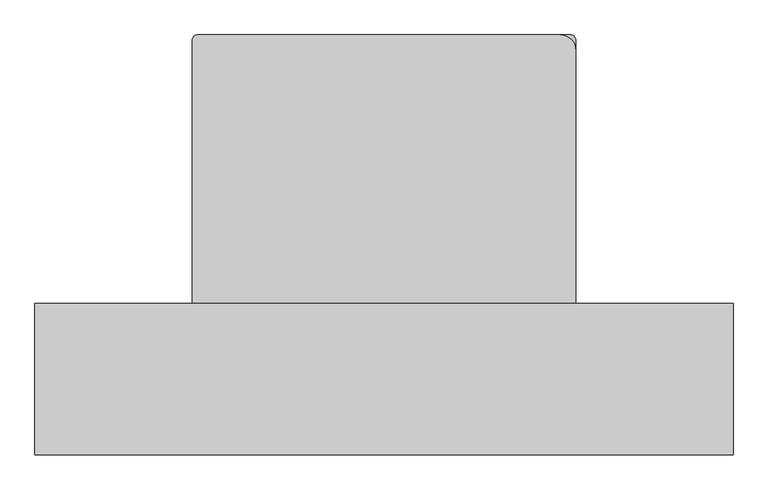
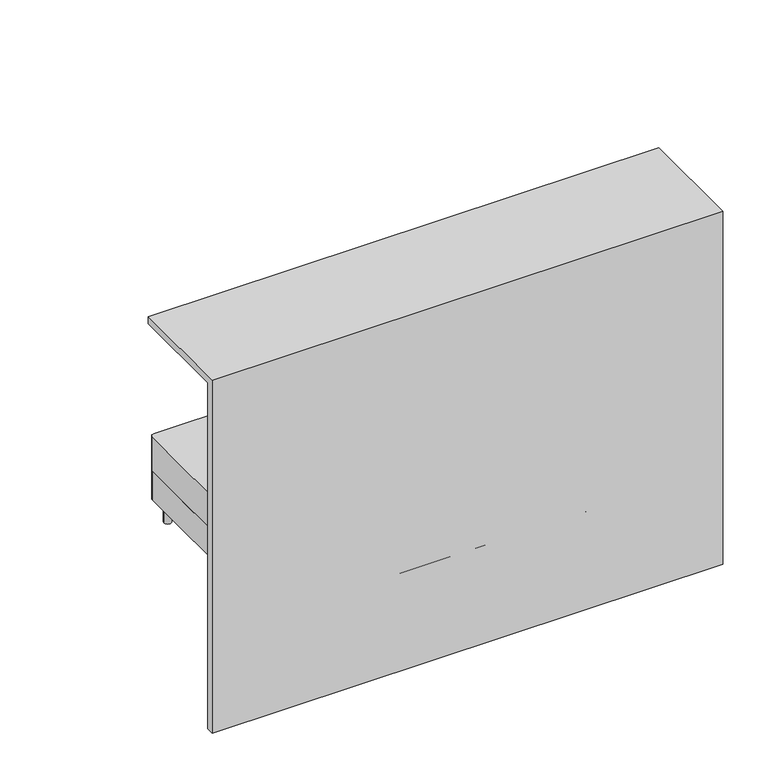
"""IFC4 building model written with IfcOpenShell, lengths in millimetres: furniture geometry, CAMA HABITACIONES : 180cmx200cmx60cm (dos camas)."""

from ifc_helpers import new_model, si_unit, point, frame, frame_2d, origin, origin_with_axes, place, context, project, spatial, polyline, circle_curve, trimmed, segment, composite_curve, outline, extrude, source, transform, mapped, element, save


def furniture_83d6330f(model_context):
    return source(origin(), model_context, "Body", "SweptSolid", [
        extrude(outline(composite_curve([segment(trimmed(circle_curve(frame_2d((-609.2577707, 774.6)), 25.4), [point((-609.2577707, 800.0))], [point((-583.8577707, 774.6))], False, "CARTESIAN"), True, "CONTINUOUS"), segment(polyline([(-583.8577707, 774.6), (-583.8577707, 625.4)]), True, "CONTINUOUS"), segment(trimmed(circle_curve(frame_2d((-609.2577707, 625.4)), 25.4), [point((-583.8577707, 625.4))], [point((-609.2577707, 600.0))], False, "CARTESIAN"), True, "CONTINUOUS"), segment(polyline([(-609.2577707, 600.0), (-889.3339743, 600.0)]), True, "CONTINUOUS"), segment(trimmed(circle_curve(frame_2d((-889.3339743, 628.7237964)), 28.7237964), [point((-889.3339743, 600.0))], [point((-918.0577707, 628.7237964))], False, "CARTESIAN"), True, "CONTINUOUS"), segment(polyline([(-918.0577707, 628.7237964), (-918.0577707, 767.4275972)]), True, "CONTINUOUS"), segment(trimmed(circle_curve(frame_2d((-885.4853679, 767.4275972)), 32.5724028), [point((-918.0577707, 767.4275972))], [point((-885.4853679, 800.0))], False, "CARTESIAN"), True, "CONTINUOUS"), segment(polyline([(-885.4853679, 800.0), (-609.2577707, 800.0)]), True, "CONTINUOUS")], self_intersect=False)), frame((323.2558032, 0.0, 0.0), z_axis=(1.0, 0.0, 0.0), x_axis=(0.0, 1.0, 0.0)), (0.0, 0.0, 1.0), 822.0327213),
        extrude(outline(composite_curve([segment(trimmed(circle_curve(frame_2d((-653.1114754, 1036.195082)), 25.4), [point((-678.5114754, 1036.195082))], [point((-653.1114754, 1061.595082))], False, "CARTESIAN"), True, "CONTINUOUS"), segment(polyline([(-653.1114754, 1061.595082), (1196.0885246, 1061.595082)]), True, "CONTINUOUS"), segment(trimmed(circle_curve(frame_2d((1196.0885246, 1036.195082)), 25.4), [point((1196.0885246, 1061.595082))], [point((1221.4885246, 1036.195082))], False, "CARTESIAN"), True, "CONTINUOUS"), segment(polyline([(1221.4885246, 1036.195082), (1221.4885246, -945.004918)]), True, "CONTINUOUS"), segment(trimmed(circle_curve(frame_2d((1196.0885246, -945.004918)), 25.4), [point((1221.4885246, -945.004918))], [point((1196.0885246, -970.404918))], False, "CARTESIAN"), True, "CONTINUOUS"), segment(polyline([(1196.0885246, -970.404918), (-653.1114754, -970.404918)]), True, "CONTINUOUS"), segment(trimmed(circle_curve(frame_2d((-653.1114754, -945.004918)), 25.4), [point((-653.1114754, -970.404918))], [point((-678.5114754, -945.004918))], False, "CARTESIAN"), True, "CONTINUOUS"), segment(polyline([(-678.5114754, -945.004918), (-678.5114754, 1036.195082)]), True, "CONTINUOUS")], self_intersect=False)), frame((0.0, 0.0, 152.4), z_axis=(0.0, 0.0, 1.0), x_axis=(1.0, 0.0, 0.0)), (0.0, 0.0, 1.0), 203.2),
        extrude(outline(composite_curve([segment(polyline([(-583.8577707, 774.6), (-583.8577707, 625.4)]), True, "CONTINUOUS"), segment(trimmed(circle_curve(frame_2d((-609.2577707, 625.4)), 25.4), [point((-583.8577707, 625.4))], [point((-609.2577707, 600.0))], False, "CARTESIAN"), True, "CONTINUOUS"), segment(polyline([(-609.2577707, 600.0), (-889.3339743, 600.0)]), True, "CONTINUOUS"), segment(trimmed(circle_curve(frame_2d((-889.3339743, 628.7237964)), 28.7237964), [point((-889.3339743, 600.0))], [point((-918.0577707, 628.7237964))], False, "CARTESIAN"), True, "CONTINUOUS"), segment(polyline([(-918.0577707, 628.7237964), (-918.0577707, 767.4275972)]), True, "CONTINUOUS"), segment(trimmed(circle_curve(frame_2d((-885.4853679, 767.4275972)), 32.5724028), [point((-918.0577707, 767.4275972))], [point((-885.4853679, 800.0))], False, "CARTESIAN"), True, "CONTINUOUS"), segment(polyline([(-885.4853679, 800.0), (-609.2577707, 800.0)]), True, "CONTINUOUS"), segment(trimmed(circle_curve(frame_2d((-609.2577707, 774.6)), 25.4), [point((-609.2577707, 800.0))], [point((-583.8577707, 774.6))], False, "CARTESIAN"), True, "CONTINUOUS")], self_intersect=False)), frame((-602.3114754, 0.0, 0.0), z_axis=(1.0, 0.0, 0.0), x_axis=(0.0, 1.0, 0.0)), (0.0, 0.0, 1.0), 822.0327213),
        extrude(outline(composite_curve([segment(trimmed(circle_curve(frame_2d((-602.3114754, -894.204918)), 25.4), [point((-627.7114754, -894.204918))], [point((-576.9114754, -894.204918))], False, "CARTESIAN"), True, "CONTINUOUS"), segment(trimmed(circle_curve(frame_2d((-602.3114754, -894.204918)), 25.4), [point((-576.9114754, -894.204918))], [point((-627.7114754, -894.204918))], False, "CARTESIAN"), True, "CONTINUOUS")], self_intersect=False)), origin_with_axes(), (0.0, 0.0, 1.0), 152.4),
        extrude(outline(composite_curve([segment(trimmed(circle_curve(frame_2d((1145.2885246, -894.204918)), 25.4), [point((1119.8885246, -894.204918))], [point((1170.6885246, -894.204918))], False, "CARTESIAN"), True, "CONTINUOUS"), segment(trimmed(circle_curve(frame_2d((1145.2885246, -894.204918)), 25.4), [point((1170.6885246, -894.204918))], [point((1119.8885246, -894.204918))], False, "CARTESIAN"), True, "CONTINUOUS")], self_intersect=False)), origin_with_axes(), (0.0, 0.0, 1.0), 152.4),
        extrude(outline(composite_curve([segment(trimmed(circle_curve(frame_2d((1145.2885246, 985.395082)), 25.4), [point((1119.8885246, 985.395082))], [point((1170.6885246, 985.395082))], False, "CARTESIAN"), True, "CONTINUOUS"), segment(trimmed(circle_curve(frame_2d((1145.2885246, 985.395082)), 25.4), [point((1170.6885246, 985.395082))], [point((1119.8885246, 985.395082))], False, "CARTESIAN"), True, "CONTINUOUS")], self_intersect=False)), origin_with_axes(), (0.0, 0.0, 1.0), 152.4),
        extrude(outline(composite_curve([segment(trimmed(circle_curve(frame_2d((-602.3114754, 985.395082)), 25.4), [point((-627.7114754, 985.395082))], [point((-576.9114754, 985.395082))], False, "CARTESIAN"), True, "CONTINUOUS"), segment(trimmed(circle_curve(frame_2d((-602.3114754, 985.395082)), 25.4), [point((-576.9114754, 985.395082))], [point((-627.7114754, 985.395082))], False, "CARTESIAN"), True, "CONTINUOUS")], self_intersect=False)), origin_with_axes(), (0.0, 0.0, 1.0), 152.4),
        extrude(outline(composite_curve([segment(trimmed(circle_curve(frame_2d((-653.1114754, -945.004918)), 25.4), [point((-653.1114754, -970.404918))], [point((-678.5114754, -945.004918))], False, "CARTESIAN"), True, "CONTINUOUS"), segment(polyline([(-678.5114754, -945.004918), (-678.5114754, 1036.195082)]), True, "CONTINUOUS"), segment(trimmed(circle_curve(frame_2d((-653.1114754, 1036.195082)), 25.4), [point((-678.5114754, 1036.195082))], [point((-653.1114754, 1061.595082))], False, "CARTESIAN"), True, "CONTINUOUS"), segment(polyline([(-653.1114754, 1061.595082), (1146.0885246, 1061.595082)]), True, "CONTINUOUS"), segment(trimmed(circle_curve(frame_2d((1146.0885246, 986.195082)), 75.4), [point((1146.0885246, 1061.595082))], [point((1221.4885246, 986.195082))], False, "CARTESIAN"), True, "CONTINUOUS"), segment(polyline([(1221.4885246, 986.195082), (1221.4885246, -904.504918)]), True, "CONTINUOUS"), segment(trimmed(circle_curve(frame_2d((1155.5885246, -904.504918)), 65.9), [point((1221.4885246, -904.504918))], [point((1155.5885246, -970.404918))], False, "CARTESIAN"), True, "CONTINUOUS"), segment(polyline([(1155.5885246, -970.404918), (-653.1114754, -970.404918)]), True, "CONTINUOUS")], self_intersect=False)), frame((0.0, 0.0, 355.6), z_axis=(0.0, 0.0, 1.0), x_axis=(1.0, 0.0, 0.0)), (0.0, 0.0, 1.0), 244.4),
        extrude(outline(polyline([(-1020.404918, 0.0), (-1020.404918, 2530.0799139), (-270.404918, 2530.0799139), (-270.404918, 2480.0799139), (-970.404918, 2480.0799139), (-970.404918, 0.0), (-1020.404918, 0.0)])), frame((-1458.5114754, 0.0, 0.0), z_axis=(1.0, 0.0, 0.0), x_axis=(0.0, 1.0, 0.0)), (0.0, 0.0, 1.0), 3460.0),
    ])


if __name__ == "__main__":
    model = new_model("IFC4")
    model_context = context("Model", 3, world=origin())
    ifc_project = project(units=[si_unit("LENGTHUNIT", "METRE", prefix="MILLI")], contexts=[model_context])
    site = spatial("IfcSite", under=ifc_project)
    building = spatial("IfcBuilding", under=site)
    placement = place(None, origin())
    furniture_shape = furniture_83d6330f(model_context)
    element("IfcFurniture", 1, ObjectType="CAMA HABITACIONES : 180cmx200cmx60cm (dos camas)", at=placement, inside=building, context=model_context, shape_type="MappedRepresentation", body=[
        mapped(furniture_shape, transform((0.0, 0.0, 0.0), x_axis=(1.0, 0.0, 0.0), y_axis=(0.0, 1.0, 0.0), z_axis=(0.0, 0.0, 1.0))),
    ])
    save(model, "model.ifc")
